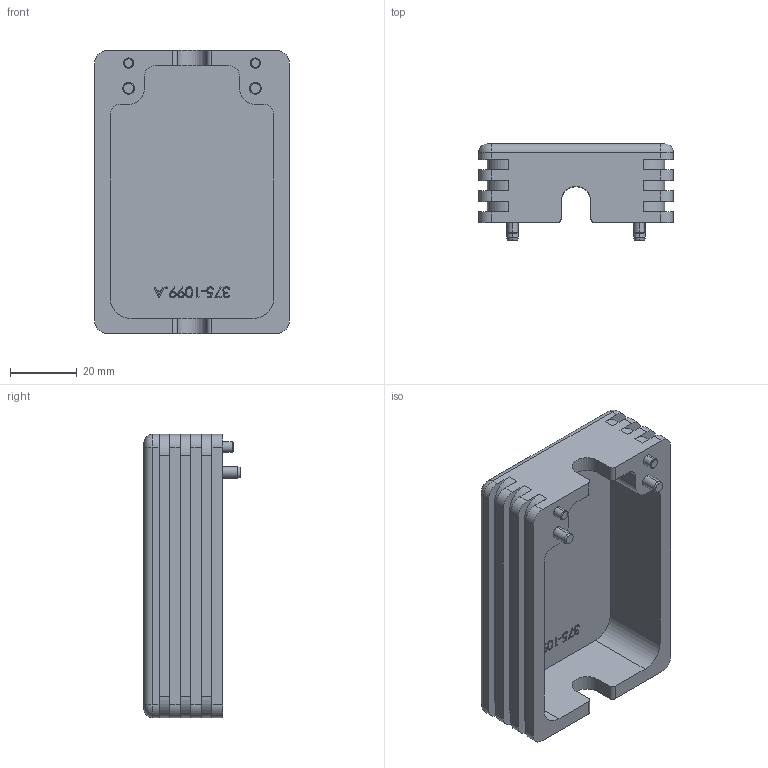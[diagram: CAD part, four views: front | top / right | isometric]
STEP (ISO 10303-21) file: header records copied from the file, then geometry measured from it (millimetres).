
FILE_DESCRIPTION (( 'STEP AP214' ), '1' );
FILE_NAME ('200-C.STEP', '2021-08-27T17:33:03', ( '' ), ( '' ), 'SwSTEP 2.0', 'SolidWorks 2020', '' );
FILE_SCHEMA (( 'AUTOMOTIVE_DESIGN' ));
Length unit declared in the file: inch
Products named in the file (1): 200-C
Bounding box: 58.42 x 28.91 x 85.09 mm (x, y, z)
Volume: 38142.9 mm3; surface area: 24092.2 mm2
Topology: 1 solids, 1 shells, 287 faces, 719 edges, 458 vertices
Faces by surface type: plane 134, cylinder 62, bspline 53, cone 30, torus 8
Entity records: 15302 total; most frequent: CARTESIAN_POINT 4916, ORIENTED_EDGE 1438, DIRECTION 1247, EDGE_CURVE 719, VERTEX_POINT 458, LINE 421, VECTOR 421, AXIS2_PLACEMENT_3D 413
